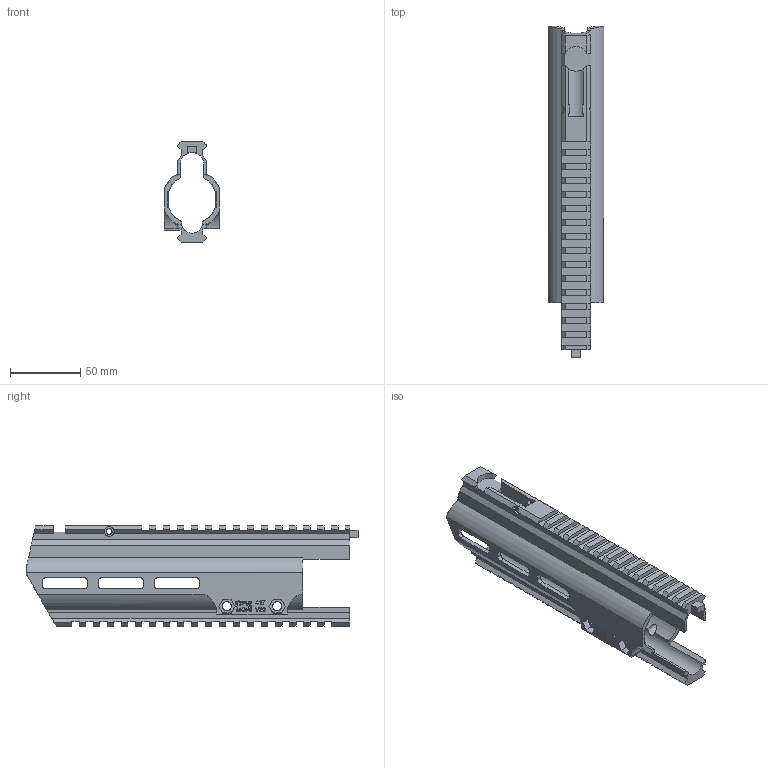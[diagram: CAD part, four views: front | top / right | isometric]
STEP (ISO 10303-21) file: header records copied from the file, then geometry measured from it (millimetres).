
FILE_DESCRIPTION(/* description */ (''),/* implementation_level */ '2;1');
FILE_NAME(/* name */ '417 rail.step',/* time_stamp */ '2025-11-07T14:40:40-06:00',/* author */ (''),/* organization */ (''),/* preprocessor_version */ 'ST-DEVELOPER v20.1',/* originating_system */ 'Autodesk Translation Framework v14.21.0.0',/* authorisation */ '');
FILE_SCHEMA (('AUTOMOTIVE_DESIGN { 1 0 10303 214 3 1 1 }'));
Length unit declared in the file: millimetre
Products named in the file (1): 417 rail
Bounding box: 39.5 x 237 x 71.49 mm (x, y, z)
Volume: 120791.2 mm3; surface area: 79018.5 mm2
Topology: 1 solids, 1 shells, 509 faces, 1501 edges, 998 vertices
Faces by surface type: plane 384, cylinder 63, bspline 60, cone 2
Full cylindrical faces by diameter (mm): 4 x2, 4.3 x1, 5.2 x1, 6.55 x4, 7 x1
Entity records: 24143 total; most frequent: CARTESIAN_POINT 10844, ORIENTED_EDGE 3002, DIRECTION 2385, EDGE_CURVE 1501, LINE 1215, VECTOR 1215, VERTEX_POINT 998, AXIS2_PLACEMENT_3D 585
